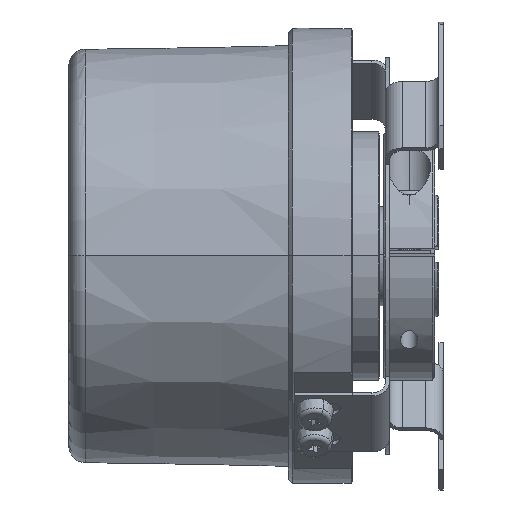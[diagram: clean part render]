
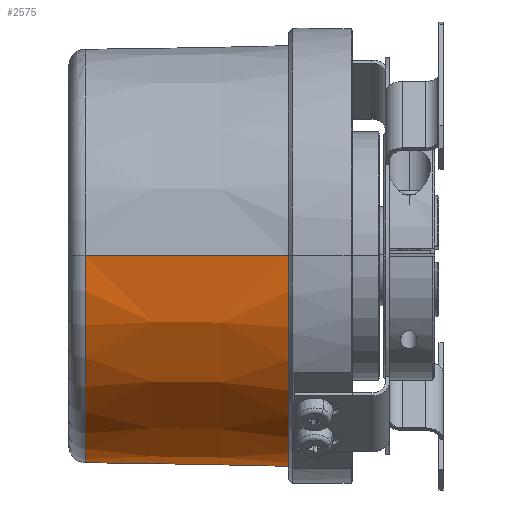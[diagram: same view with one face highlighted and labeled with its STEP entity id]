
A CAD part, top view. The second image highlights one B-rep face of the part: STEP entity #2575.
In plain terms, the highlighted conical face has half-angle 1 degrees and reference radius 25.4 mm.
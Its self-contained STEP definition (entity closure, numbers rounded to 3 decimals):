
#2240 = EDGE_CURVE ( 'NONE', #2358, #2241, #13588, .T. ) ;
#2241 = VERTEX_POINT ( 'NONE', #13584 ) ;
#2358 = VERTEX_POINT ( 'NONE', #14093 ) ;
#2445 = EDGE_CURVE ( 'NONE', #2446, #9621, #14480, .T. ) ;
#2446 = VERTEX_POINT ( 'NONE', #14479 ) ;
#2555 = EDGE_LOOP ( 'NONE', ( #2576, #2577, #2559, #2562, #2564, #2565 ) ) ;
#2559 = ORIENTED_EDGE ( 'NONE', *, *, #2560, .T. ) ;
#2560 = EDGE_CURVE ( 'NONE', #2579, #2561, #15001, .T. ) ;
#2561 = VERTEX_POINT ( 'NONE', #15002 ) ;
#2562 = ORIENTED_EDGE ( 'NONE', *, *, #2563, .F. ) ;
#2563 = EDGE_CURVE ( 'NONE', #2446, #2561, #14886, .T. ) ;
#2564 = ORIENTED_EDGE ( 'NONE', *, *, #2445, .T. ) ;
#2565 = ORIENTED_EDGE ( 'NONE', *, *, #2772, .T. ) ;
#2575 = ADVANCED_FACE ( 'NONE', ( #15226 ), #15206, .T. ) ;
#2576 = ORIENTED_EDGE ( 'NONE', *, *, #2240, .F. ) ;
#2577 = ORIENTED_EDGE ( 'NONE', *, *, #2578, .T. ) ;
#2578 = EDGE_CURVE ( 'NONE', #2358, #2579, #15207, .T. ) ;
#2579 = VERTEX_POINT ( 'NONE', #15197 ) ;
#2772 = EDGE_CURVE ( 'NONE', #9621, #2241, #4061, .T. ) ;
#3897 = DIRECTION ( 'NONE',  ( 0., 0., -1. ) ) ;
#3950 = DIRECTION ( 'NONE',  ( -1., 0., 0. ) ) ;
#3991 = CARTESIAN_POINT ( 'NONE',  ( 5.5, 0., 0. ) ) ;
#4061 = CIRCLE ( 'NONE', #4070, 25.4 ) ;
#4070 = AXIS2_PLACEMENT_3D ( 'NONE', #3991, #3950, #3897 ) ;
#9621 = VERTEX_POINT ( 'NONE', #18027 ) ;
#13584 = CARTESIAN_POINT ( 'NONE',  ( 5.5, 0., 25.4 ) ) ;
#13585 = DIRECTION ( 'NONE',  ( 1., 0., 0.017 ) ) ;
#13586 = VECTOR ( 'NONE', #13585, 1000. ) ;
#13587 = CARTESIAN_POINT ( 'NONE',  ( 5.5, 0., 25.4 ) ) ;
#13588 = LINE ( 'NONE', #13587, #13586 ) ;
#14093 = CARTESIAN_POINT ( 'NONE',  ( -19.035, 0., 24.972 ) ) ;
#14462 = CARTESIAN_POINT ( 'NONE',  ( 5.5, -12.989, -21.828 ) ) ;
#14463 = CARTESIAN_POINT ( 'NONE',  ( 5.5, -13.341, -21.618 ) ) ;
#14464 = CARTESIAN_POINT ( 'NONE',  ( 5.461, -13.682, -21.403 ) ) ;
#14465 = CARTESIAN_POINT ( 'NONE',  ( 5.317, -14.347, -20.96 ) ) ;
#14466 = CARTESIAN_POINT ( 'NONE',  ( 5.21, -14.672, -20.731 ) ) ;
#14467 = CARTESIAN_POINT ( 'NONE',  ( 4.995, -15.13, -20.392 ) ) ;
#14468 = CARTESIAN_POINT ( 'NONE',  ( 4.914, -15.278, -20.28 ) ) ;
#14469 = CARTESIAN_POINT ( 'NONE',  ( 4.727, -15.562, -20.058 ) ) ;
#14470 = CARTESIAN_POINT ( 'NONE',  ( 4.62, -15.701, -19.947 ) ) ;
#14471 = CARTESIAN_POINT ( 'NONE',  ( 4.436, -15.89, -19.792 ) ) ;
#14472 = CARTESIAN_POINT ( 'NONE',  ( 4.37, -15.95, -19.742 ) ) ;
#14473 = CARTESIAN_POINT ( 'NONE',  ( 4.228, -16.062, -19.648 ) ) ;
#14474 = CARTESIAN_POINT ( 'NONE',  ( 4.151, -16.115, -19.603 ) ) ;
#14475 = CARTESIAN_POINT ( 'NONE',  ( 3.902, -16.252, -19.484 ) ) ;
#14476 = CARTESIAN_POINT ( 'NONE',  ( 3.708, -16.315, -19.426 ) ) ;
#14477 = CARTESIAN_POINT ( 'NONE',  ( 3.5, -16.319, -19.418 ) ) ;
#14479 = CARTESIAN_POINT ( 'NONE',  ( 3.5, -16.319, -19.418 ) ) ;
#14480 = B_SPLINE_CURVE_WITH_KNOTS ( 'NONE', 3,
 ( #14477, #14476, #14475, #14474, #14473, #14472, #14471, #14470, #14469, #14468, #14467, #14466, #14465, #14464, #14463, #14462 ),
 .UNSPECIFIED., .F., .F.,
 ( 4, 2, 2, 2, 2, 2, 2, 4 ),
 ( 0., 0.001, 0.001, 0.001, 0.002, 0.002, 0.004, 0.005 ),
 .UNSPECIFIED. ) ;
#14878 = CARTESIAN_POINT ( 'NONE',  ( -19., -16.728, -18.542 ) ) ;
#14879 = CARTESIAN_POINT ( 'NONE',  ( -11.501, -16.586, -18.846 ) ) ;
#14880 = CARTESIAN_POINT ( 'NONE',  ( -4.001, -16.45, -19.137 ) ) ;
#14881 = CARTESIAN_POINT ( 'NONE',  ( 3.5, -16.319, -19.418 ) ) ;
#14886 = B_SPLINE_CURVE_WITH_KNOTS ( 'NONE', 3,
 ( #14881, #14880, #14879, #14878 ),
 .UNSPECIFIED., .F., .F.,
 ( 4, 4 ),
 ( 0.002, 0.025 ),
 .UNSPECIFIED. ) ;
#14889 = CARTESIAN_POINT ( 'NONE',  ( -19., -16.728, -18.542 ) ) ;
#14890 = CARTESIAN_POINT ( 'NONE',  ( -19.012, -16.728, -18.541 ) ) ;
#14999 = CARTESIAN_POINT ( 'NONE',  ( -19.023, -16.728, -18.541 ) ) ;
#15000 = CARTESIAN_POINT ( 'NONE',  ( -19.035, -16.728, -18.541 ) ) ;
#15001 = B_SPLINE_CURVE_WITH_KNOTS ( 'NONE', 3,
 ( #15000, #14999, #14890, #14889 ),
 .UNSPECIFIED., .F., .F.,
 ( 4, 4 ),
 ( 0., 0. ),
 .UNSPECIFIED. ) ;
#15002 = CARTESIAN_POINT ( 'NONE',  ( -19., -16.728, -18.542 ) ) ;
#15197 = CARTESIAN_POINT ( 'NONE',  ( -19.035, -16.728, -18.541 ) ) ;
#15198 = DIRECTION ( 'NONE',  ( 0., 0., -1. ) ) ;
#15199 = DIRECTION ( 'NONE',  ( 1., 0., 0. ) ) ;
#15200 = CARTESIAN_POINT ( 'NONE',  ( -19.035, 0., 0. ) ) ;
#15201 = AXIS2_PLACEMENT_3D ( 'NONE', #15200, #15199, #15198 ) ;
#15203 = DIRECTION ( 'NONE',  ( 0., 0., 1. ) ) ;
#15204 = DIRECTION ( 'NONE',  ( 1., 0., 0. ) ) ;
#15205 = AXIS2_PLACEMENT_3D ( 'NONE', #15208, #15204, #15203 ) ;
#15206 = CONICAL_SURFACE ( 'NONE', #15205, 25.4, 0.017 ) ;
#15207 = CIRCLE ( 'NONE', #15201, 24.972 ) ;
#15208 = CARTESIAN_POINT ( 'NONE',  ( 5.5, 0., 0. ) ) ;
#15226 = FACE_OUTER_BOUND ( 'NONE', #2555, .T. ) ;
#18027 = CARTESIAN_POINT ( 'NONE',  ( 5.5, -12.989, -21.828 ) ) ;
